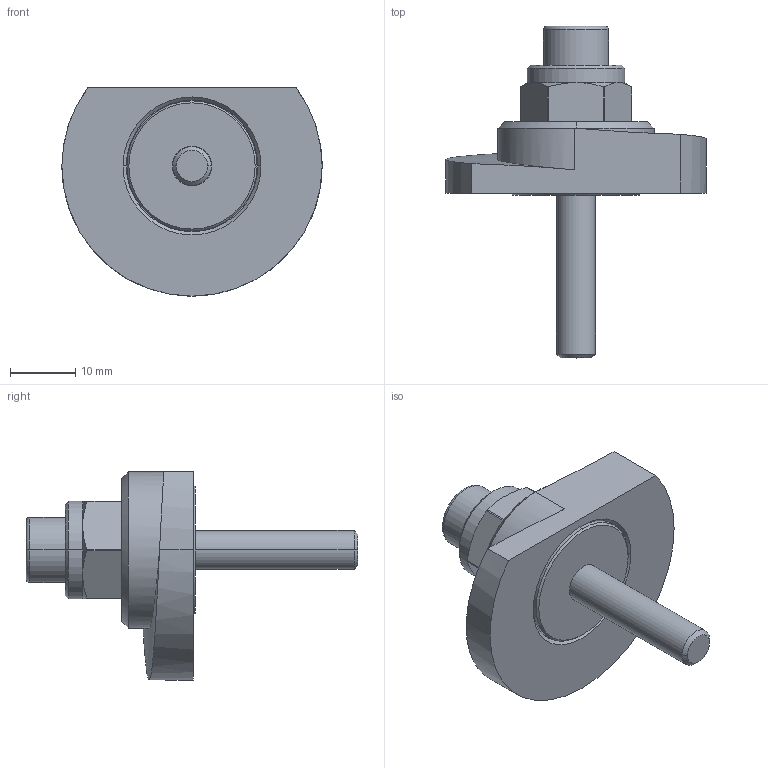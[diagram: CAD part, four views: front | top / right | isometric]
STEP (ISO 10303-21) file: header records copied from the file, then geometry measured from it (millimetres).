
FILE_DESCRIPTION (( 'STEP AP214' ), '1' );
FILE_NAME ('918.1-40-SKS-L-25.step', '2024-05-15T13:00:46', ( '' ), ( '' ), 'SwSTEP 2.0', 'SolidWorks 2022', '' );
FILE_SCHEMA (( 'AUTOMOTIVE_DESIGN' ));
Length unit declared in the file: millimetre
Products named in the file (1): 918.1-40-SKS-L-25
Bounding box: 40 x 51 x 32 mm (x, y, z)
Volume: 11656.9 mm3; surface area: 6679.7 mm2
Topology: 1 solids, 2 shells, 80 faces, 179 edges, 112 vertices
Faces by surface type: cylinder 27, plane 26, cone 22, bspline 3, torus 2
Entity records: 2599 total; most frequent: CARTESIAN_POINT 777, DIRECTION 390, ORIENTED_EDGE 358, EDGE_CURVE 179, AXIS2_PLACEMENT_3D 157, VERTEX_POINT 112, EDGE_LOOP 91, ADVANCED_FACE 80
